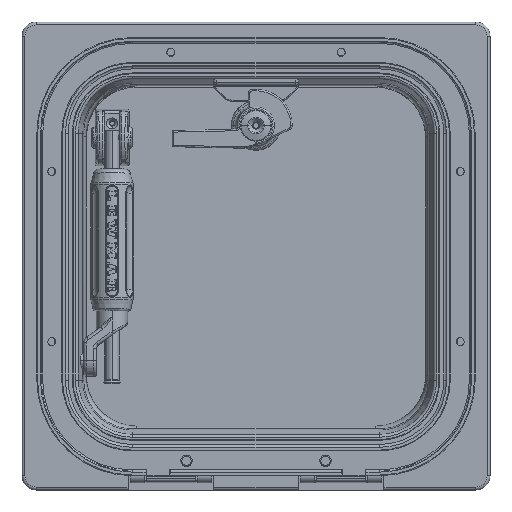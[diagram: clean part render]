
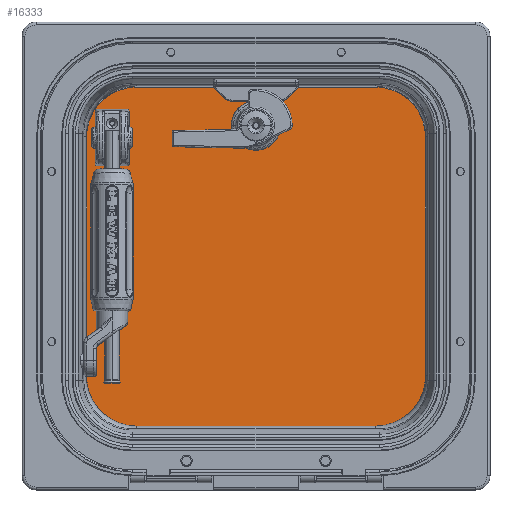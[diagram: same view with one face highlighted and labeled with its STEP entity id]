
A CAD part, front view. The second image highlights one B-rep face of the part: STEP entity #16333.
In plain terms, the highlighted planar face has unit normal (0, -1, 0).
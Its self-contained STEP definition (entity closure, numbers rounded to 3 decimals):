
#14722=CARTESIAN_POINT('',(-101.5,0.,93.5));
#14723=DIRECTION('',(0.,1.,0.));
#14724=DIRECTION('',(-1.,0.,0.));
#14725=AXIS2_PLACEMENT_3D('',#14722,#14723,#14724);
#14727=DIRECTION('',(0.,0.,1.));
#14728=VECTOR('',#14727,20.);
#14729=CARTESIAN_POINT('',(-106.5,0.,73.5));
#14730=LINE('',#14729,#14728);
#14731=CARTESIAN_POINT('',(-101.5,0.,73.5));
#14732=DIRECTION('',(0.,1.,0.));
#14733=DIRECTION('',(1.,0.,0.));
#14734=AXIS2_PLACEMENT_3D('',#14731,#14732,#14733);
#14736=DIRECTION('',(0.,0.,-1.));
#14737=VECTOR('',#14736,20.);
#14738=CARTESIAN_POINT('',(-96.5,0.,93.5));
#14739=LINE('',#14738,#14737);
#14740=CARTESIAN_POINT('',(-5.05,0.,94.55));
#14741=DIRECTION('',(0.,-1.,0.));
#14742=DIRECTION('',(0.,0.,1.));
#14743=AXIS2_PLACEMENT_3D('',#14740,#14741,#14742);
#14745=DIRECTION('',(0.,0.,-1.));
#14746=VECTOR('',#14745,5.1);
#14747=CARTESIAN_POINT('',(-10.05,0.,94.55));
#14748=LINE('',#14747,#14746);
#14749=CARTESIAN_POINT('',(-5.05,0.,89.45));
#14750=DIRECTION('',(0.,-1.,0.));
#14751=DIRECTION('',(-1.,0.,0.));
#14752=AXIS2_PLACEMENT_3D('',#14749,#14750,#14751);
#14754=DIRECTION('',(1.,0.,0.));
#14755=VECTOR('',#14754,10.1);
#14756=CARTESIAN_POINT('',(-5.05,0.,84.45));
#14757=LINE('',#14756,#14755);
#14758=CARTESIAN_POINT('',(5.05,0.,89.45));
#14759=DIRECTION('',(0.,-1.,0.));
#14760=DIRECTION('',(0.,0.,-1.));
#14761=AXIS2_PLACEMENT_3D('',#14758,#14759,#14760);
#14763=DIRECTION('',(0.,0.,1.));
#14764=VECTOR('',#14763,5.1);
#14765=CARTESIAN_POINT('',(10.05,0.,89.45));
#14766=LINE('',#14765,#14764);
#14767=CARTESIAN_POINT('',(5.05,0.,94.55));
#14768=DIRECTION('',(0.,-1.,0.));
#14769=DIRECTION('',(1.,0.,0.));
#14770=AXIS2_PLACEMENT_3D('',#14767,#14768,#14769);
#14772=DIRECTION('',(-1.,0.,0.));
#14773=VECTOR('',#14772,10.1);
#14774=CARTESIAN_POINT('',(5.05,0.,99.55));
#14775=LINE('',#14774,#14773);
#14856=CARTESIAN_POINT('',(-84.5,0.,-84.95));
#14857=DIRECTION('',(0.,1.,0.));
#14858=DIRECTION('',(0.,0.,-1.));
#14859=AXIS2_PLACEMENT_3D('',#14856,#14857,#14858);
#14861=DIRECTION('',(0.,0.,-1.));
#14862=VECTOR('',#14861,169.);
#14863=CARTESIAN_POINT('',(-119.5,0.,84.05));
#14864=LINE('',#14863,#14862);
#14865=CARTESIAN_POINT('',(-84.5,0.,84.05));
#14866=DIRECTION('',(0.,1.,0.));
#14867=DIRECTION('',(-1.,0.,0.));
#14868=AXIS2_PLACEMENT_3D('',#14865,#14866,#14867);
#14870=DIRECTION('',(-1.,0.,0.));
#14871=VECTOR('',#14870,169.);
#14872=CARTESIAN_POINT('',(84.5,0.,119.05));
#14873=LINE('',#14872,#14871);
#14874=CARTESIAN_POINT('',(84.5,0.,84.05));
#14875=DIRECTION('',(0.,1.,0.));
#14876=DIRECTION('',(0.,0.,1.));
#14877=AXIS2_PLACEMENT_3D('',#14874,#14875,#14876);
#14879=DIRECTION('',(0.,0.,1.));
#14880=VECTOR('',#14879,169.);
#14881=CARTESIAN_POINT('',(119.5,0.,-84.95));
#14882=LINE('',#14881,#14880);
#14883=CARTESIAN_POINT('',(84.5,0.,-84.95));
#14884=DIRECTION('',(0.,1.,0.));
#14885=DIRECTION('',(1.,0.,0.));
#14886=AXIS2_PLACEMENT_3D('',#14883,#14884,#14885);
#14888=DIRECTION('',(1.,0.,0.));
#14889=VECTOR('',#14888,169.);
#14890=CARTESIAN_POINT('',(-84.5,0.,-119.95));
#14891=LINE('',#14890,#14889);
#15946=CARTESIAN_POINT('',(-106.5,0.,93.5));
#15947=CARTESIAN_POINT('',(-96.5,0.,93.5));
#15948=VERTEX_POINT('',#15946);
#15949=VERTEX_POINT('',#15947);
#15950=CARTESIAN_POINT('',(-96.5,0.,73.5));
#15951=VERTEX_POINT('',#15950);
#15952=CARTESIAN_POINT('',(-106.5,0.,73.5));
#15953=VERTEX_POINT('',#15952);
#15962=CARTESIAN_POINT('',(-5.05,0.,99.55));
#15963=CARTESIAN_POINT('',(-10.05,0.,94.55));
#15964=VERTEX_POINT('',#15962);
#15965=VERTEX_POINT('',#15963);
#15966=CARTESIAN_POINT('',(-10.05,0.,89.45));
#15967=VERTEX_POINT('',#15966);
#15968=CARTESIAN_POINT('',(-5.05,0.,84.45));
#15969=VERTEX_POINT('',#15968);
#15970=CARTESIAN_POINT('',(5.05,0.,84.45));
#15971=VERTEX_POINT('',#15970);
#15972=CARTESIAN_POINT('',(10.05,0.,89.45));
#15973=VERTEX_POINT('',#15972);
#15974=CARTESIAN_POINT('',(10.05,0.,94.55));
#15975=VERTEX_POINT('',#15974);
#15976=CARTESIAN_POINT('',(5.05,0.,99.55));
#15977=VERTEX_POINT('',#15976);
#16178=CARTESIAN_POINT('',(-84.5,0.,-119.95));
#16179=CARTESIAN_POINT('',(-119.5,0.,-84.95));
#16180=VERTEX_POINT('',#16178);
#16181=VERTEX_POINT('',#16179);
#16182=CARTESIAN_POINT('',(84.5,0.,-119.95));
#16183=VERTEX_POINT('',#16182);
#16184=CARTESIAN_POINT('',(119.5,0.,-84.95));
#16185=VERTEX_POINT('',#16184);
#16186=CARTESIAN_POINT('',(119.5,0.,84.05));
#16187=VERTEX_POINT('',#16186);
#16188=CARTESIAN_POINT('',(84.5,0.,119.05));
#16189=VERTEX_POINT('',#16188);
#16190=CARTESIAN_POINT('',(-84.5,0.,119.05));
#16191=VERTEX_POINT('',#16190);
#16192=CARTESIAN_POINT('',(-119.5,0.,84.05));
#16193=VERTEX_POINT('',#16192);
#16282=CARTESIAN_POINT('',(0.,0.,0.));
#16283=DIRECTION('',(0.,1.,0.));
#16284=DIRECTION('',(1.,0.,0.));
#16285=AXIS2_PLACEMENT_3D('',#16282,#16283,#16284);
#16286=PLANE('',#16285);
#16288=ORIENTED_EDGE('',*,*,#16287,.T.);
#16290=ORIENTED_EDGE('',*,*,#16289,.F.);
#16292=ORIENTED_EDGE('',*,*,#16291,.T.);
#16294=ORIENTED_EDGE('',*,*,#16293,.F.);
#16296=ORIENTED_EDGE('',*,*,#16295,.T.);
#16298=ORIENTED_EDGE('',*,*,#16297,.F.);
#16300=ORIENTED_EDGE('',*,*,#16299,.T.);
#16302=ORIENTED_EDGE('',*,*,#16301,.F.);
#16303=EDGE_LOOP('',(#16288,#16290,#16292,#16294,#16296,#16298,#16300,#16302));
#16304=FACE_OUTER_BOUND('',#16303,.F.);
#16306=ORIENTED_EDGE('',*,*,#16305,.F.);
#16308=ORIENTED_EDGE('',*,*,#16307,.F.);
#16310=ORIENTED_EDGE('',*,*,#16309,.F.);
#16312=ORIENTED_EDGE('',*,*,#16311,.F.);
#16313=EDGE_LOOP('',(#16306,#16308,#16310,#16312));
#16314=FACE_BOUND('',#16313,.F.);
#16316=ORIENTED_EDGE('',*,*,#16315,.T.);
#16318=ORIENTED_EDGE('',*,*,#16317,.T.);
#16320=ORIENTED_EDGE('',*,*,#16319,.T.);
#16322=ORIENTED_EDGE('',*,*,#16321,.T.);
#16324=ORIENTED_EDGE('',*,*,#16323,.T.);
#16326=ORIENTED_EDGE('',*,*,#16325,.T.);
#16328=ORIENTED_EDGE('',*,*,#16327,.T.);
#16330=ORIENTED_EDGE('',*,*,#16329,.T.);
#16331=EDGE_LOOP('',(#16316,#16318,#16320,#16322,#16324,#16326,#16328,#16330));
#16332=FACE_BOUND('',#16331,.F.);
#16333=ADVANCED_FACE('',(#16304,#16314,#16332),#16286,.F.);
#14726=CIRCLE('',#14725,5.);
#14735=CIRCLE('',#14734,5.);
#14744=CIRCLE('',#14743,5.);
#14753=CIRCLE('',#14752,5.);
#14762=CIRCLE('',#14761,5.);
#14771=CIRCLE('',#14770,5.);
#14860=CIRCLE('',#14859,35.);
#14869=CIRCLE('',#14868,35.);
#14878=CIRCLE('',#14877,35.);
#14887=CIRCLE('',#14886,35.);
#16287=EDGE_CURVE('',#16180,#16181,#14860,.T.);
#16289=EDGE_CURVE('',#16193,#16181,#14864,.T.);
#16291=EDGE_CURVE('',#16193,#16191,#14869,.T.);
#16293=EDGE_CURVE('',#16189,#16191,#14873,.T.);
#16295=EDGE_CURVE('',#16189,#16187,#14878,.T.);
#16297=EDGE_CURVE('',#16185,#16187,#14882,.T.);
#16299=EDGE_CURVE('',#16185,#16183,#14887,.T.);
#16301=EDGE_CURVE('',#16180,#16183,#14891,.T.);
#16305=EDGE_CURVE('',#15948,#15949,#14726,.T.);
#16307=EDGE_CURVE('',#15953,#15948,#14730,.T.);
#16309=EDGE_CURVE('',#15951,#15953,#14735,.T.);
#16311=EDGE_CURVE('',#15949,#15951,#14739,.T.);
#16315=EDGE_CURVE('',#15964,#15965,#14744,.T.);
#16317=EDGE_CURVE('',#15965,#15967,#14748,.T.);
#16319=EDGE_CURVE('',#15967,#15969,#14753,.T.);
#16321=EDGE_CURVE('',#15969,#15971,#14757,.T.);
#16323=EDGE_CURVE('',#15971,#15973,#14762,.T.);
#16325=EDGE_CURVE('',#15973,#15975,#14766,.T.);
#16327=EDGE_CURVE('',#15975,#15977,#14771,.T.);
#16329=EDGE_CURVE('',#15977,#15964,#14775,.T.);
